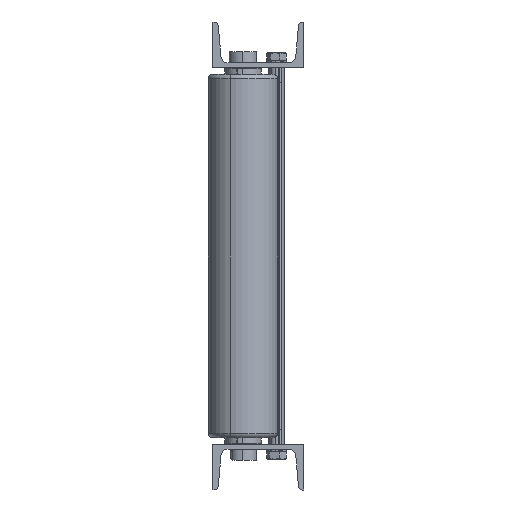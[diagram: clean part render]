
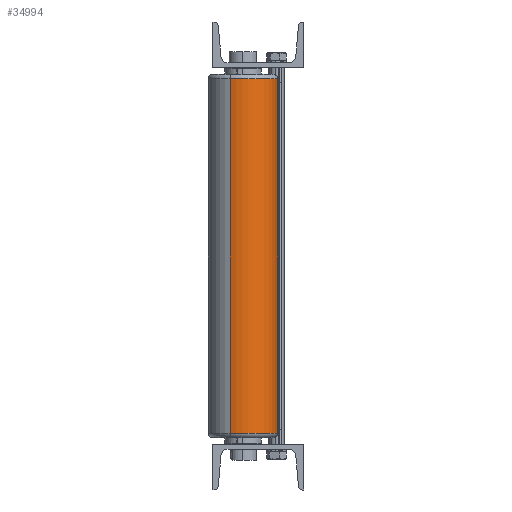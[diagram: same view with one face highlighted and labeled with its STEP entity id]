
A CAD part, left-side view. The second image highlights one B-rep face of the part: STEP entity #34994.
In plain terms, the highlighted cylindrical face has radius 38.15 mm (diameter 76.3 mm), a partial arc.
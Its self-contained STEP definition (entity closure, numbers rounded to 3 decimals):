
#289 = CARTESIAN_POINT ( 'NONE',  ( -1227.118, -273.073, -133.705 ) ) ;
#392 = VERTEX_POINT ( 'NONE', #19143 ) ;
#1835 = DIRECTION ( 'NONE',  ( 0., 0., 1. ) ) ;
#1878 = DIRECTION ( 'NONE',  ( 0., 0., 1. ) ) ;
#2649 = DIRECTION ( 'NONE',  ( -0.93, 0.369, 0. ) ) ;
#3065 = CARTESIAN_POINT ( 'NONE',  ( -1191.654, -287.136, -523.705 ) ) ;
#3178 = VECTOR ( 'NONE', #1835, 1000. ) ;
#4490 = DIRECTION ( 'NONE',  ( 0.93, -0.369, 0. ) ) ;
#4806 = DIRECTION ( 'NONE',  ( 0., 0., 1. ) ) ;
#5497 = DIRECTION ( 'NONE',  ( -0.93, 0.369, 0. ) ) ;
#8206 = CIRCLE ( 'NONE', #15343, 38.15 ) ;
#8800 = EDGE_CURVE ( 'NONE', #392, #21977, #22231, .T. ) ;
#10978 = DIRECTION ( 'NONE',  ( 0., 0., -1. ) ) ;
#11001 = EDGE_LOOP ( 'NONE', ( #19123, #15650, #18412, #24804 ) ) ;
#14187 = DIRECTION ( 'NONE',  ( 0., 0., 1. ) ) ;
#14227 = EDGE_CURVE ( 'NONE', #21461, #23567, #15957, .T. ) ;
#15343 = AXIS2_PLACEMENT_3D ( 'NONE', #3065, #14187, #5497 ) ;
#15650 = ORIENTED_EDGE ( 'NONE', *, *, #29174, .T. ) ;
#15957 = LINE ( 'NONE', #27298, #3178 ) ;
#18412 = ORIENTED_EDGE ( 'NONE', *, *, #14227, .T. ) ;
#18717 = CARTESIAN_POINT ( 'NONE',  ( -1227.118, -273.073, -528.705 ) ) ;
#18787 = CARTESIAN_POINT ( 'NONE',  ( -1191.654, -287.136, -528.705 ) ) ;
#19123 = ORIENTED_EDGE ( 'NONE', *, *, #8800, .F. ) ;
#19143 = CARTESIAN_POINT ( 'NONE',  ( -1227.118, -273.073, -523.705 ) ) ;
#20864 = CARTESIAN_POINT ( 'NONE',  ( -1156.191, -301.199, -133.705 ) ) ;
#21461 = VERTEX_POINT ( 'NONE', #31180 ) ;
#21977 = VERTEX_POINT ( 'NONE', #289 ) ;
#22231 = LINE ( 'NONE', #18717, #36756 ) ;
#22888 = CIRCLE ( 'NONE', #36535, 38.15 ) ;
#23567 = VERTEX_POINT ( 'NONE', #20864 ) ;
#23674 = AXIS2_PLACEMENT_3D ( 'NONE', #18787, #1878, #4490 ) ;
#24804 = ORIENTED_EDGE ( 'NONE', *, *, #30860, .T. ) ;
#25653 = CARTESIAN_POINT ( 'NONE',  ( -1191.654, -287.136, -133.705 ) ) ;
#26952 = CYLINDRICAL_SURFACE ( 'NONE', #23674, 38.15 ) ;
#27298 = CARTESIAN_POINT ( 'NONE',  ( -1156.191, -301.199, -528.705 ) ) ;
#29174 = EDGE_CURVE ( 'NONE', #392, #21461, #8206, .T. ) ;
#30860 = EDGE_CURVE ( 'NONE', #23567, #21977, #22888, .T. ) ;
#31180 = CARTESIAN_POINT ( 'NONE',  ( -1156.191, -301.199, -523.705 ) ) ;
#32505 = FACE_OUTER_BOUND ( 'NONE', #11001, .T. ) ;
#34994 = ADVANCED_FACE ( 'NONE', ( #32505 ), #26952, .T. ) ;
#36535 = AXIS2_PLACEMENT_3D ( 'NONE', #25653, #10978, #2649 ) ;
#36756 = VECTOR ( 'NONE', #4806, 1000. ) ;
